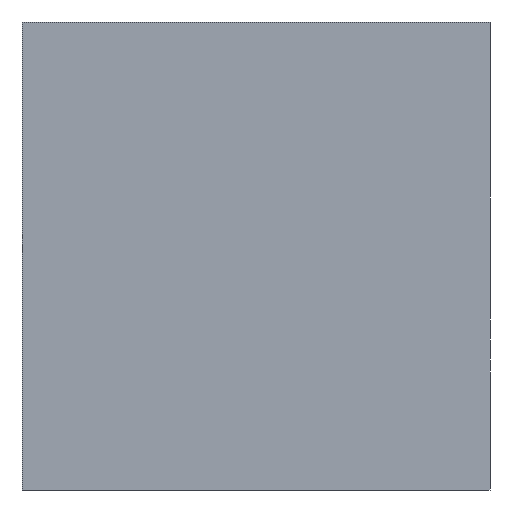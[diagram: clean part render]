
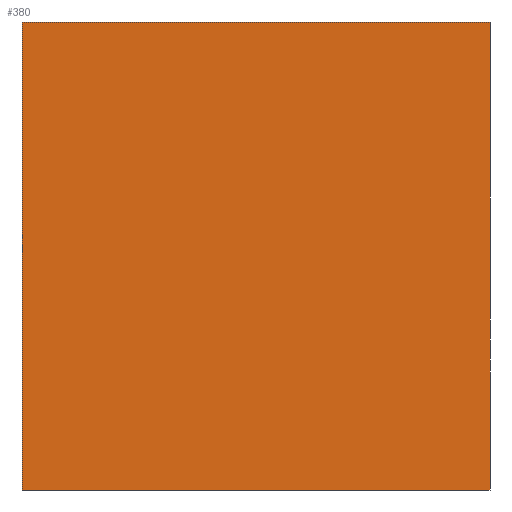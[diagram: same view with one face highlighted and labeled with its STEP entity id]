
A CAD part, left-side view. The second image highlights one B-rep face of the part: STEP entity #380.
In plain terms, the highlighted planar face has unit normal (-1, 0, 0).
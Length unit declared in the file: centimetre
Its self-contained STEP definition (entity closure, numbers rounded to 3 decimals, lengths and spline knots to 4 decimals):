
#25 = VERTEX_POINT ( 'NONE', #76 ) ;
#26 = LINE ( 'NONE', #258, #474 ) ;
#30 = VERTEX_POINT ( 'NONE', #158 ) ;
#37 = CARTESIAN_POINT ( 'NONE',  ( 0., 1000., 1000. ) ) ;
#76 = CARTESIAN_POINT ( 'NONE',  ( 0., 1000., 1000. ) ) ;
#121 = CARTESIAN_POINT ( 'NONE',  ( 0., 1000., 0. ) ) ;
#125 = DIRECTION ( 'NONE',  ( 0., 0., -1. ) ) ;
#127 = DIRECTION ( 'NONE',  ( 0., -1., 0. ) ) ;
#138 = EDGE_CURVE ( 'NONE', #25, #467, #279, .T. ) ;
#149 = AXIS2_PLACEMENT_3D ( 'NONE', #37, #159, #125 ) ;
#158 = CARTESIAN_POINT ( 'NONE',  ( 0., 0., 0. ) ) ;
#159 = DIRECTION ( 'NONE',  ( 1., 0., 0. ) ) ;
#177 = EDGE_LOOP ( 'NONE', ( #320, #416, #423, #426 ) ) ;
#193 = VECTOR ( 'NONE', #348, 100. ) ;
#207 = LINE ( 'NONE', #367, #298 ) ;
#226 = EDGE_CURVE ( 'NONE', #502, #30, #26, .T. ) ;
#236 = EDGE_CURVE ( 'NONE', #25, #502, #207, .T. ) ;
#241 = CARTESIAN_POINT ( 'NONE',  ( 0., 1000., 1000. ) ) ;
#258 = CARTESIAN_POINT ( 'NONE',  ( 0., 1000., 0. ) ) ;
#266 = LINE ( 'NONE', #427, #193 ) ;
#279 = LINE ( 'NONE', #241, #430 ) ;
#281 = EDGE_CURVE ( 'NONE', #467, #30, #266, .T. ) ;
#298 = VECTOR ( 'NONE', #498, 100. ) ;
#320 = ORIENTED_EDGE ( 'NONE', *, *, #226, .T. ) ;
#348 = DIRECTION ( 'NONE',  ( 0., 0., -1. ) ) ;
#367 = CARTESIAN_POINT ( 'NONE',  ( 0., 1000., 1000. ) ) ;
#380 = ADVANCED_FACE ( 'NONE', ( #529 ), #414, .F. ) ;
#414 = PLANE ( 'NONE',  #149 ) ;
#416 = ORIENTED_EDGE ( 'NONE', *, *, #281, .F. ) ;
#423 = ORIENTED_EDGE ( 'NONE', *, *, #138, .F. ) ;
#426 = ORIENTED_EDGE ( 'NONE', *, *, #236, .T. ) ;
#427 = CARTESIAN_POINT ( 'NONE',  ( 0., 0., 1000. ) ) ;
#430 = VECTOR ( 'NONE', #527, 100. ) ;
#467 = VERTEX_POINT ( 'NONE', #504 ) ;
#474 = VECTOR ( 'NONE', #127, 100. ) ;
#498 = DIRECTION ( 'NONE',  ( 0., 0., -1. ) ) ;
#502 = VERTEX_POINT ( 'NONE', #121 ) ;
#504 = CARTESIAN_POINT ( 'NONE',  ( 0., 0., 1000. ) ) ;
#527 = DIRECTION ( 'NONE',  ( 0., -1., 0. ) ) ;
#529 = FACE_OUTER_BOUND ( 'NONE', #177, .T. ) ;
